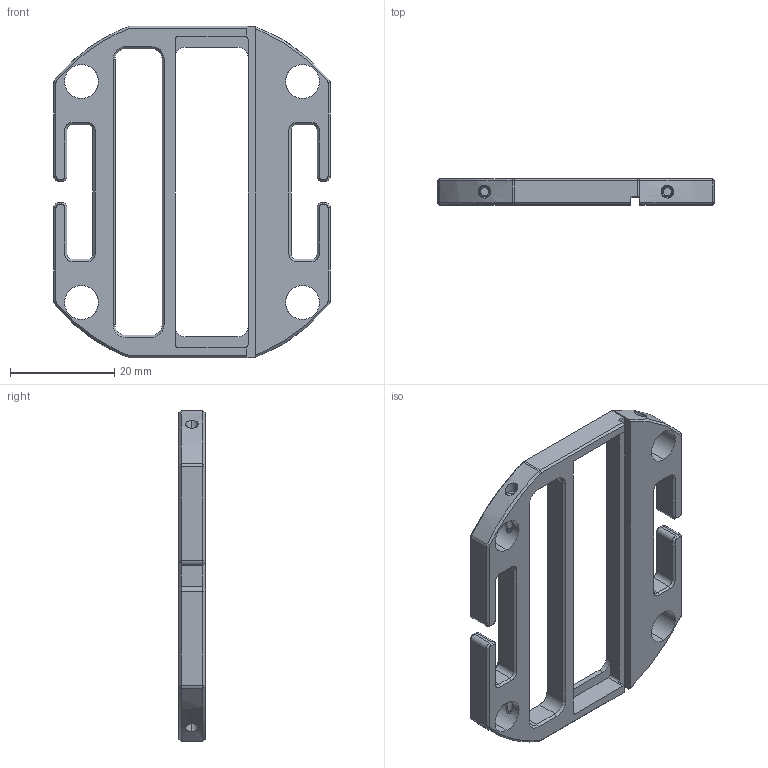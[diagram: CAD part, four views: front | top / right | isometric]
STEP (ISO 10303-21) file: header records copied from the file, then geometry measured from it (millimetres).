
FILE_DESCRIPTION(/* description */ ('(C) Elphel, Inc. 2013. Licensed under CERN OHL v.1.1 or later, see http://ohwr.org/cernohl'),/* implementation_level */ '2;1');
FILE_NAME(/* name */ '0353-19-746.stp',/* time_stamp */ '2013-04-22T14:41:30-06:00',/* author */ (''),/* organization */ ('Elphel, Inc'),/* preprocessor_version */ 'ST-DEVELOPER v14',/* originating_system */ 'VariCAD 2013-2.04; kernel version (20130303)',/* authorisation */ '');
FILE_SCHEMA (('CONFIG_CONTROL_DESIGN'));
Length unit declared in the file: millimetre
Products named in the file (2): 0353-19-746
Assembly tree (1 placements, depth 2):
  0353-19-746
    0353-19-746
Bounding box: 53 x 5 x 63.6 mm (x, y, z)
Volume: 6686.5 mm3; surface area: 6208.2 mm2
Topology: 1 solids, 1 shells, 249 faces, 648 edges, 404 vertices
Faces by surface type: plane 95, cone 78, cylinder 76
Entity records: 8278 total; most frequent: CARTESIAN_POINT 1943, DIRECTION 1346, ORIENTED_EDGE 1296, EDGE_CURVE 648, AXIS2_PLACEMENT_3D 487, VERTEX_POINT 404, LINE 372, VECTOR 372
